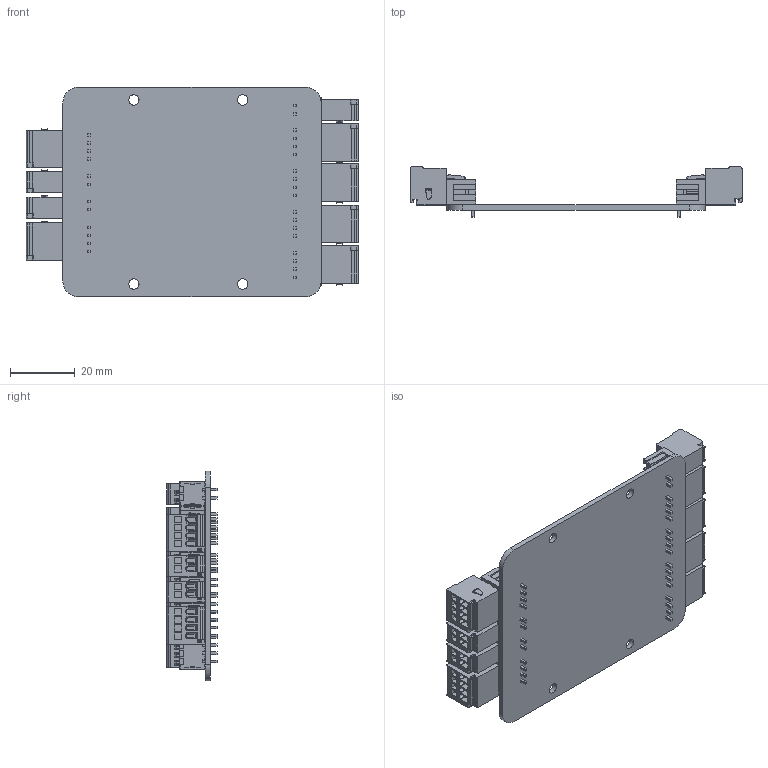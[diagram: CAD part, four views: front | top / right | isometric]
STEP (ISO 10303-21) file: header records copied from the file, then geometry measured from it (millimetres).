
FILE_DESCRIPTION(/* description */ ('Assembly Pcb PWM 02CH STD-ETH'),/* implementation_level */ '2;1');
FILE_NAME(/* name */ 'C:\Users\sha\AppData\Local\Temp\101686.Model.step',/* time_stamp */ '2018-08-29T10:51:22+02:00',/* author */ ('SHA'),/* organization */ ('iCsys AS'),/* preprocessor_version */ 'ST-DEVELOPER v17',/* originating_system */ 'Autodesk Inventor 2019',/* authorisation */ '');
FILE_SCHEMA (('AUTOMOTIVE_DESIGN { 1 0 10303 214 3 1 1 }'));
Length unit declared in the file: millimetre
Products named in the file (6): 101686; 101687; 100088; 100041; 100086; 100040
Assembly tree (19 placements, depth 2):
  101686
    101687
    100041  x3
    100088  x6
    100086  x6
    100040  x3
Bounding box: 102.8 x 15.5 x 65 mm (x, y, z)
Volume: 24573.7 mm3; surface area: 29208.6 mm2
Topology: 19 solids, 19 shells, 2948 faces, 8044 edges, 5344 vertices
Faces by surface type: plane 2370, cylinder 518, cone 60
Full cylindrical faces by diameter (mm): 1.2 x30, 3.2 x4
Entity records: 20001 total; most frequent: CARTESIAN_POINT 3535, ORIENTED_EDGE 3416, DIRECTION 3274, EDGE_CURVE 1708, LINE 1412, VECTOR 1412, VERTEX_POINT 1136, AXIS2_PLACEMENT_3D 931
